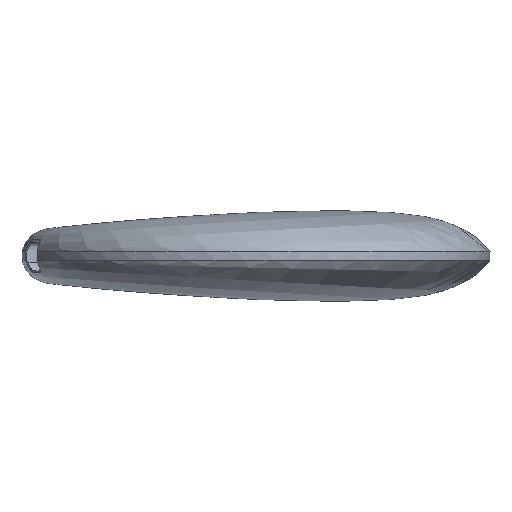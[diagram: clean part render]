
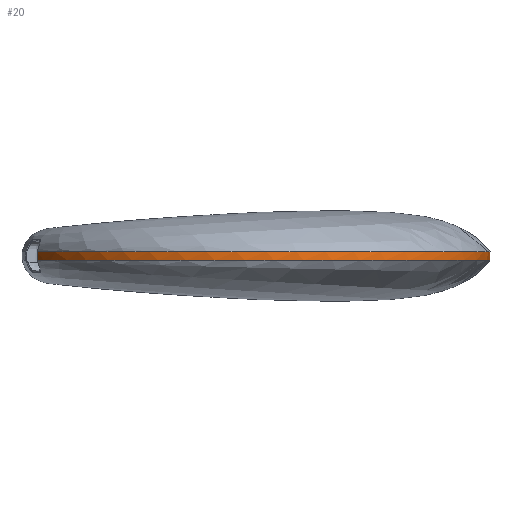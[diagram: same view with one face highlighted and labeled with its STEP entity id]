
A CAD part, left-side view. The second image highlights one B-rep face of the part: STEP entity #20.
In plain terms, the highlighted free-form (B-spline) face has degree [1, 3] with [2, 18] control points.
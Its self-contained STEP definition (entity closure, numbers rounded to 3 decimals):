
#20=ADVANCED_FACE('',(#66),#739,.T.);
#66=FACE_OUTER_BOUND('',#112,.T.);
#112=EDGE_LOOP('',(#173,#174,#175,#176));
#173=ORIENTED_EDGE('',*,*,#414,.T.);
#174=ORIENTED_EDGE('',*,*,#416,.F.);
#175=ORIENTED_EDGE('',*,*,#435,.F.);
#176=ORIENTED_EDGE('',*,*,#415,.F.);
#414=EDGE_CURVE('',#653,#650,#582,.T.);
#415=EDGE_CURVE('',#653,#658,#583,.T.);
#416=EDGE_CURVE('',#657,#650,#584,.T.);
#435=EDGE_CURVE('',#658,#657,#602,.T.);
#582=B_SPLINE_CURVE_WITH_KNOTS('',3,(#3790,#3791,#3792,#3793),
 .UNSPECIFIED.,.F.,.F.,(4,4),(0.,0.302),
 .UNSPECIFIED.);
#583=B_SPLINE_CURVE_WITH_KNOTS('',3,(#3794,#3795,#3796,#3797,#3798,#3799,
#3800,#3801,#3802,#3803,#3804,#3805,#3806,#3807,#3808,#3809,#3810,#3811),
 .UNSPECIFIED.,.F.,.F.,(4,2,2,2,2,2,2,2,4),(-24.009,-23.753,
-20.359,-16.966,-13.573,-10.18,
-6.786,-3.393,0.),.UNSPECIFIED.);
#584=B_SPLINE_CURVE_WITH_KNOTS('',3,(#3812,#3813,#3814,#3815,#3816,#3817,
#3818,#3819,#3820,#3821,#3822,#3823,#3824,#3825,#3826,#3827,#3828,#3829),
 .UNSPECIFIED.,.F.,.F.,(4,2,2,2,2,2,2,2,4),(0.,3.393,6.786,
10.18,13.573,16.966,20.359,23.753,
24.009),.UNSPECIFIED.);
#602=B_SPLINE_CURVE_WITH_KNOTS('',1,(#3944,#3945),.UNSPECIFIED.,.F.,.F.,
(2,2),(0.,0.3),.UNSPECIFIED.);
#650=VERTEX_POINT('',#3629);
#653=VERTEX_POINT('',#3632);
#657=VERTEX_POINT('',#3636);
#658=VERTEX_POINT('',#3637);
#739=B_SPLINE_SURFACE_WITH_KNOTS('',1,3,((#870,#871,#872,#873,#874,#875,
#876,#877,#878,#879,#880,#881,#882,#883,#884,#885,#886,#887),(#888,#889,
#890,#891,#892,#893,#894,#895,#896,#897,#898,#899,#900,#901,#902,#903,#904,
#905)),.UNSPECIFIED.,.F.,.F.,.F.,(2,2),(4,2,2,2,2,2,2,2,4),(-0.3,
0.),(0.,3.393,6.786,10.18,13.573,
16.966,20.359,23.753,27.146),
 .UNSPECIFIED.);
#870=CARTESIAN_POINT('',(0.,-8.68,-0.15));
#871=CARTESIAN_POINT('',(-1.131,-8.681,-0.15));
#872=CARTESIAN_POINT('',(-2.261,-8.45,-0.151));
#873=CARTESIAN_POINT('',(-4.345,-7.568,-0.153));
#874=CARTESIAN_POINT('',(-5.297,-6.919,-0.155));
#875=CARTESIAN_POINT('',(-6.883,-5.306,-0.159));
#876=CARTESIAN_POINT('',(-7.517,-4.343,-0.161));
#877=CARTESIAN_POINT('',(-8.375,-2.25,-0.164));
#878=CARTESIAN_POINT('',(-8.599,-1.12,-0.165));
#879=CARTESIAN_POINT('',(-8.605,1.143,-0.165));
#880=CARTESIAN_POINT('',(-8.386,2.274,-0.164));
#881=CARTESIAN_POINT('',(-7.533,4.369,-0.161));
#882=CARTESIAN_POINT('',(-6.897,5.331,-0.158));
#883=CARTESIAN_POINT('',(-5.306,6.939,-0.154));
#884=CARTESIAN_POINT('',(-4.35,7.583,-0.152));
#885=CARTESIAN_POINT('',(-2.262,8.454,-0.15));
#886=CARTESIAN_POINT('',(-1.131,8.681,-0.15));
#887=CARTESIAN_POINT('',(0.,8.68,-0.15));
#888=CARTESIAN_POINT('',(0.,-8.68,0.15));
#889=CARTESIAN_POINT('',(-1.131,-8.681,0.15));
#890=CARTESIAN_POINT('',(-2.261,-8.45,0.151));
#891=CARTESIAN_POINT('',(-4.345,-7.568,0.153));
#892=CARTESIAN_POINT('',(-5.297,-6.919,0.155));
#893=CARTESIAN_POINT('',(-6.883,-5.306,0.159));
#894=CARTESIAN_POINT('',(-7.517,-4.343,0.161));
#895=CARTESIAN_POINT('',(-8.375,-2.25,0.164));
#896=CARTESIAN_POINT('',(-8.599,-1.12,0.165));
#897=CARTESIAN_POINT('',(-8.605,1.143,0.165));
#898=CARTESIAN_POINT('',(-8.386,2.274,0.164));
#899=CARTESIAN_POINT('',(-7.533,4.369,0.161));
#900=CARTESIAN_POINT('',(-6.897,5.331,0.158));
#901=CARTESIAN_POINT('',(-5.306,6.939,0.154));
#902=CARTESIAN_POINT('',(-4.35,7.583,0.152));
#903=CARTESIAN_POINT('',(-2.262,8.454,0.15));
#904=CARTESIAN_POINT('',(-1.131,8.681,0.15));
#905=CARTESIAN_POINT('',(0.,8.68,0.15));
#3629=CARTESIAN_POINT('',(-3.067,8.114,-0.151));
#3632=CARTESIAN_POINT('',(-3.067,8.114,0.151));
#3636=CARTESIAN_POINT('',(0.,-8.68,-0.15));
#3637=CARTESIAN_POINT('',(0.,-8.68,0.15));
#3790=CARTESIAN_POINT('',(-3.067,8.114,0.151));
#3791=CARTESIAN_POINT('',(-3.067,8.114,0.05));
#3792=CARTESIAN_POINT('',(-3.067,8.114,-0.05));
#3793=CARTESIAN_POINT('',(-3.067,8.114,-0.151));
#3794=CARTESIAN_POINT('',(-3.067,8.114,0.151));
#3795=CARTESIAN_POINT('',(-3.147,8.083,0.151));
#3796=CARTESIAN_POINT('',(-3.227,8.052,0.151));
#3797=CARTESIAN_POINT('',(-4.35,7.583,0.152));
#3798=CARTESIAN_POINT('',(-5.306,6.939,0.154));
#3799=CARTESIAN_POINT('',(-6.897,5.331,0.158));
#3800=CARTESIAN_POINT('',(-7.533,4.369,0.161));
#3801=CARTESIAN_POINT('',(-8.386,2.274,0.164));
#3802=CARTESIAN_POINT('',(-8.605,1.143,0.165));
#3803=CARTESIAN_POINT('',(-8.599,-1.12,0.165));
#3804=CARTESIAN_POINT('',(-8.375,-2.25,0.164));
#3805=CARTESIAN_POINT('',(-7.517,-4.343,0.161));
#3806=CARTESIAN_POINT('',(-6.883,-5.306,0.159));
#3807=CARTESIAN_POINT('',(-5.297,-6.919,0.155));
#3808=CARTESIAN_POINT('',(-4.345,-7.568,0.153));
#3809=CARTESIAN_POINT('',(-2.261,-8.45,0.151));
#3810=CARTESIAN_POINT('',(-1.131,-8.681,0.15));
#3811=CARTESIAN_POINT('',(0.,-8.68,0.15));
#3812=CARTESIAN_POINT('',(0.,-8.68,-0.15));
#3813=CARTESIAN_POINT('',(-1.131,-8.681,-0.15));
#3814=CARTESIAN_POINT('',(-2.261,-8.45,-0.151));
#3815=CARTESIAN_POINT('',(-4.345,-7.568,-0.153));
#3816=CARTESIAN_POINT('',(-5.297,-6.919,-0.155));
#3817=CARTESIAN_POINT('',(-6.883,-5.306,-0.159));
#3818=CARTESIAN_POINT('',(-7.517,-4.343,-0.161));
#3819=CARTESIAN_POINT('',(-8.375,-2.25,-0.164));
#3820=CARTESIAN_POINT('',(-8.599,-1.12,-0.165));
#3821=CARTESIAN_POINT('',(-8.605,1.143,-0.165));
#3822=CARTESIAN_POINT('',(-8.386,2.274,-0.164));
#3823=CARTESIAN_POINT('',(-7.533,4.369,-0.161));
#3824=CARTESIAN_POINT('',(-6.897,5.331,-0.158));
#3825=CARTESIAN_POINT('',(-5.306,6.939,-0.154));
#3826=CARTESIAN_POINT('',(-4.35,7.583,-0.152));
#3827=CARTESIAN_POINT('',(-3.227,8.052,-0.151));
#3828=CARTESIAN_POINT('',(-3.147,8.083,-0.151));
#3829=CARTESIAN_POINT('',(-3.067,8.114,-0.151));
#3944=CARTESIAN_POINT('',(0.,-8.68,0.15));
#3945=CARTESIAN_POINT('',(0.,-8.68,-0.15));
